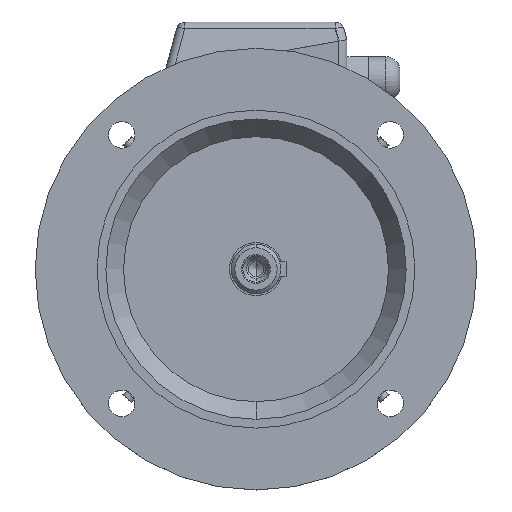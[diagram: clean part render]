
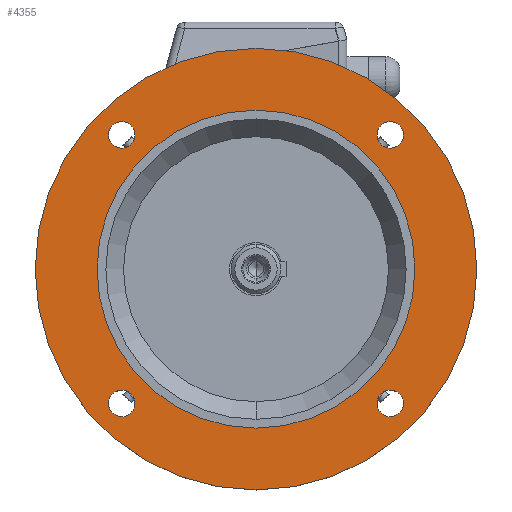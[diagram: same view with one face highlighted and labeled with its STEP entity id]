
A CAD part, top view. The second image highlights one B-rep face of the part: STEP entity #4355.
In plain terms, the highlighted planar face has unit normal (0, 0, 1).
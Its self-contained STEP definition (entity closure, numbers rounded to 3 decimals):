
#90 = EDGE_LOOP ( 'NONE', ( #18477, #8697 ) ) ;
#369 = ORIENTED_EDGE ( 'NONE', *, *, #13754, .F. ) ;
#1137 = CARTESIAN_POINT ( 'NONE',  ( -68.514, -76.014, 45. ) ) ;
#1236 = CIRCLE ( 'NONE', #1237, 7.5 ) ;
#1237 = AXIS2_PLACEMENT_3D ( 'NONE', #1238, #1239, #1240 ) ;
#1238 = CARTESIAN_POINT ( 'NONE',  ( -76.014, -76.014, 45. ) ) ;
#1239 = DIRECTION ( 'NONE',  ( 0., 0., 1. ) ) ;
#1240 = DIRECTION ( 'NONE',  ( 1., 0., 0. ) ) ;
#1269 = EDGE_CURVE ( 'NONE', #13494, #14792, #8090, .T. ) ;
#1375 = CARTESIAN_POINT ( 'NONE',  ( -68.514, 76.014, 45. ) ) ;
#17774 = CARTESIAN_POINT ( 'NONE',  ( 83.514, 76.014, 45. ) ) ;
#1471 = ORIENTED_EDGE ( 'NONE', *, *, #1269, .F. ) ;
#1613 = CIRCLE ( 'NONE', #1614, 7.5 ) ;
#1614 = AXIS2_PLACEMENT_3D ( 'NONE', #1615, #1616, #1617 ) ;
#1615 = CARTESIAN_POINT ( 'NONE',  ( -76.014, 76.014, 45. ) ) ;
#1616 = DIRECTION ( 'NONE',  ( 0., 0., 1. ) ) ;
#17991 = CIRCLE ( 'NONE', #17992, 7.5 ) ;
#17992 = AXIS2_PLACEMENT_3D ( 'NONE', #17993, #17994, #17995 ) ;
#17993 = CARTESIAN_POINT ( 'NONE',  ( 76.014, 76.014, 45. ) ) ;
#17994 = DIRECTION ( 'NONE',  ( 0., 0., 1. ) ) ;
#17995 = DIRECTION ( 'NONE',  ( 1., 0., 0. ) ) ;
#1617 = DIRECTION ( 'NONE',  ( 1., 0., 0. ) ) ;
#18157 = CARTESIAN_POINT ( 'NONE',  ( 0., -125., 45. ) ) ;
#18277 = EDGE_CURVE ( 'NONE', #6465, #6804, #5045, .T. ) ;
#1945 = CARTESIAN_POINT ( 'NONE',  ( -83.514, -76.014, 45. ) ) ;
#18327 = CARTESIAN_POINT ( 'NONE',  ( 0., 125., 45. ) ) ;
#18458 = CIRCLE ( 'NONE', #18459, 125. ) ;
#18459 = AXIS2_PLACEMENT_3D ( 'NONE', #18460, #18461, #18462 ) ;
#18460 = CARTESIAN_POINT ( 'NONE',  ( 0., 0., 45. ) ) ;
#18461 = DIRECTION ( 'NONE',  ( 0., 0., -1. ) ) ;
#18462 = DIRECTION ( 'NONE',  ( 0., 1., 0. ) ) ;
#18477 = ORIENTED_EDGE ( 'NONE', *, *, #18277, .F. ) ;
#2234 = ORIENTED_EDGE ( 'NONE', *, *, #6294, .F. ) ;
#18644 = CARTESIAN_POINT ( 'NONE',  ( 68.514, 76.014, 45. ) ) ;
#2283 = EDGE_LOOP ( 'NONE', ( #1471, #369 ) ) ;
#2539 = CARTESIAN_POINT ( 'NONE',  ( -83.514, 76.014, 45. ) ) ;
#2562 = ORIENTED_EDGE ( 'NONE', *, *, #14253, .F. ) ;
#2842 = ORIENTED_EDGE ( 'NONE', *, *, #11189, .F. ) ;
#3176 = EDGE_CURVE ( 'NONE', #13997, #15507, #9547, .T. ) ;
#3449 = EDGE_LOOP ( 'NONE', ( #2842, #2234 ) ) ;
#3608 = ORIENTED_EDGE ( 'NONE', *, *, #3176, .F. ) ;
#3738 = EDGE_CURVE ( 'NONE', #6240, #5835, #9867, .T. ) ;
#4172 = ORIENTED_EDGE ( 'NONE', *, *, #3738, .T. ) ;
#4173 = EDGE_LOOP ( 'NONE', ( #3608, #2562 ) ) ;
#4355 = ADVANCED_FACE ( 'NONE', ( #10285, #10286, #10293, #10294, #10295, #10296 ), #10297, .T. ) ;
#5045 = CIRCLE ( 'NONE', #5046, 7.5 ) ;
#5046 = AXIS2_PLACEMENT_3D ( 'NONE', #5047, #5048, #5049 ) ;
#5047 = CARTESIAN_POINT ( 'NONE',  ( 76.014, -76.014, 45. ) ) ;
#5048 = DIRECTION ( 'NONE',  ( 0., 0., 1. ) ) ;
#5049 = DIRECTION ( 'NONE',  ( 1., 0., 0. ) ) ;
#5835 = VERTEX_POINT ( 'NONE', #11791 ) ;
#5903 = EDGE_CURVE ( 'NONE', #5835, #6240, #11970, .T. ) ;
#6240 = VERTEX_POINT ( 'NONE', #13226 ) ;
#6294 = EDGE_CURVE ( 'NONE', #10663, #10921, #13459, .T. ) ;
#6465 = VERTEX_POINT ( 'NONE', #13942 ) ;
#6532 = EDGE_CURVE ( 'NONE', #6804, #6465, #14117, .T. ) ;
#6804 = VERTEX_POINT ( 'NONE', #14827 ) ;
#7605 = EDGE_CURVE ( 'NONE', #10202, #11506, #15643, .T. ) ;
#7794 = ORIENTED_EDGE ( 'NONE', *, *, #7605, .F. ) ;
#8090 = CIRCLE ( 'NONE', #8091, 7.5 ) ;
#8091 = AXIS2_PLACEMENT_3D ( 'NONE', #8092, #8093, #8094 ) ;
#8092 = CARTESIAN_POINT ( 'NONE',  ( -76.014, -76.014, 45. ) ) ;
#8093 = DIRECTION ( 'NONE',  ( 0., 0., 1. ) ) ;
#8094 = DIRECTION ( 'NONE',  ( 1., 0., 0. ) ) ;
#8411 = EDGE_LOOP ( 'NONE', ( #7794, #11820 ) ) ;
#8697 = ORIENTED_EDGE ( 'NONE', *, *, #6532, .F. ) ;
#9547 = CIRCLE ( 'NONE', #9548, 7.5 ) ;
#9548 = AXIS2_PLACEMENT_3D ( 'NONE', #9549, #9550, #9551 ) ;
#9549 = CARTESIAN_POINT ( 'NONE',  ( -76.014, 76.014, 45. ) ) ;
#9550 = DIRECTION ( 'NONE',  ( 0., 0., 1. ) ) ;
#9551 = DIRECTION ( 'NONE',  ( 1., 0., 0. ) ) ;
#9867 = CIRCLE ( 'NONE', #9868, 90. ) ;
#9868 = AXIS2_PLACEMENT_3D ( 'NONE', #9869, #9870, #9871 ) ;
#9869 = CARTESIAN_POINT ( 'NONE',  ( 0., 0., 45. ) ) ;
#9870 = DIRECTION ( 'NONE',  ( 0., 0., -1. ) ) ;
#9871 = DIRECTION ( 'NONE',  ( 0., 1., 0. ) ) ;
#10202 = VERTEX_POINT ( 'NONE', #17774 ) ;
#10285 = FACE_BOUND ( 'NONE', #4173, .T. ) ;
#10286 = FACE_BOUND ( 'NONE', #2283, .T. ) ;
#10293 = FACE_BOUND ( 'NONE', #90, .T. ) ;
#10294 = FACE_BOUND ( 'NONE', #8411, .T. ) ;
#10295 = FACE_BOUND ( 'NONE', #11532, .T. ) ;
#10296 = FACE_OUTER_BOUND ( 'NONE', #3449, .T. ) ;
#10297 = PLANE ( 'NONE',  #10298 ) ;
#10298 = AXIS2_PLACEMENT_3D ( 'NONE', #10299, #10300, #10301 ) ;
#10299 = CARTESIAN_POINT ( 'NONE',  ( 0., 125., 45. ) ) ;
#10300 = DIRECTION ( 'NONE',  ( 0., 0., 1. ) ) ;
#10301 = DIRECTION ( 'NONE',  ( 0., -1., 0. ) ) ;
#10464 = EDGE_CURVE ( 'NONE', #11506, #10202, #17991, .T. ) ;
#10663 = VERTEX_POINT ( 'NONE', #18157 ) ;
#10921 = VERTEX_POINT ( 'NONE', #18327 ) ;
#10923 = ORIENTED_EDGE ( 'NONE', *, *, #5903, .T. ) ;
#11189 = EDGE_CURVE ( 'NONE', #10921, #10663, #18458, .T. ) ;
#11506 = VERTEX_POINT ( 'NONE', #18644 ) ;
#11532 = EDGE_LOOP ( 'NONE', ( #10923, #4172 ) ) ;
#11791 = CARTESIAN_POINT ( 'NONE',  ( 0., 90., 45. ) ) ;
#11820 = ORIENTED_EDGE ( 'NONE', *, *, #10464, .F. ) ;
#11970 = CIRCLE ( 'NONE', #11971, 90. ) ;
#11971 = AXIS2_PLACEMENT_3D ( 'NONE', #11972, #11978, #11979 ) ;
#11972 = CARTESIAN_POINT ( 'NONE',  ( 0., 0., 45. ) ) ;
#11978 = DIRECTION ( 'NONE',  ( 0., 0., -1. ) ) ;
#11979 = DIRECTION ( 'NONE',  ( 0., 1., 0. ) ) ;
#13226 = CARTESIAN_POINT ( 'NONE',  ( 0., -90., 45. ) ) ;
#13459 = CIRCLE ( 'NONE', #13460, 125. ) ;
#13460 = AXIS2_PLACEMENT_3D ( 'NONE', #13461, #13462, #13463 ) ;
#13461 = CARTESIAN_POINT ( 'NONE',  ( 0., 0., 45. ) ) ;
#13462 = DIRECTION ( 'NONE',  ( 0., 0., -1. ) ) ;
#13463 = DIRECTION ( 'NONE',  ( 0., 1., 0. ) ) ;
#13494 = VERTEX_POINT ( 'NONE', #1137 ) ;
#13754 = EDGE_CURVE ( 'NONE', #14792, #13494, #1236, .T. ) ;
#13942 = CARTESIAN_POINT ( 'NONE',  ( 83.514, -76.014, 45. ) ) ;
#13997 = VERTEX_POINT ( 'NONE', #1375 ) ;
#14117 = CIRCLE ( 'NONE', #14118, 7.5 ) ;
#14118 = AXIS2_PLACEMENT_3D ( 'NONE', #14126, #14127, #14128 ) ;
#14126 = CARTESIAN_POINT ( 'NONE',  ( 76.014, -76.014, 45. ) ) ;
#14127 = DIRECTION ( 'NONE',  ( 0., 0., 1. ) ) ;
#14128 = DIRECTION ( 'NONE',  ( 1., 0., 0. ) ) ;
#14253 = EDGE_CURVE ( 'NONE', #15507, #13997, #1613, .T. ) ;
#14792 = VERTEX_POINT ( 'NONE', #1945 ) ;
#14827 = CARTESIAN_POINT ( 'NONE',  ( 68.514, -76.014, 45. ) ) ;
#15507 = VERTEX_POINT ( 'NONE', #2539 ) ;
#15643 = CIRCLE ( 'NONE', #15644, 7.5 ) ;
#15644 = AXIS2_PLACEMENT_3D ( 'NONE', #15645, #15646, #15647 ) ;
#15645 = CARTESIAN_POINT ( 'NONE',  ( 76.014, 76.014, 45. ) ) ;
#15646 = DIRECTION ( 'NONE',  ( 0., 0., 1. ) ) ;
#15647 = DIRECTION ( 'NONE',  ( 1., 0., 0. ) ) ;
